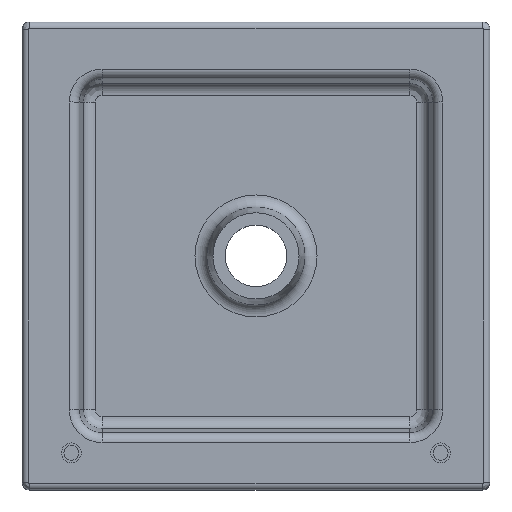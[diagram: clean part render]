
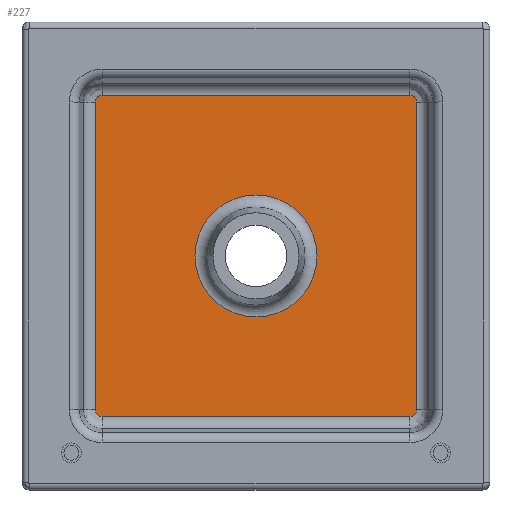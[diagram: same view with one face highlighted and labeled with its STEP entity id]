
A CAD part, top view. The second image highlights one B-rep face of the part: STEP entity #227.
In plain terms, the highlighted planar face has unit normal (0, 0, 1).
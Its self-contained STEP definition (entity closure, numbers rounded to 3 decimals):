
#227 = ADVANCED_FACE( '', ( #491, #492 ), #493, .T. );
#491 = FACE_BOUND( '', #1324, .T. );
#492 = FACE_OUTER_BOUND( '', #1325, .T. );
#493 = PLANE( '', #1326 );
#1324 = EDGE_LOOP( '', ( #1912 ) );
#1325 = EDGE_LOOP( '', ( #1913, #1914, #1915, #1916, #1917, #1918, #1919, #1920 ) );
#1326 = AXIS2_PLACEMENT_3D( '', #1921, #1922, #1923 );
#1912 = ORIENTED_EDGE( '', *, *, #2354, .T. );
#1913 = ORIENTED_EDGE( '', *, *, #2336, .T. );
#1914 = ORIENTED_EDGE( '', *, *, #2372, .T. );
#1915 = ORIENTED_EDGE( '', *, *, #2327, .T. );
#1916 = ORIENTED_EDGE( '', *, *, #2373, .T. );
#1917 = ORIENTED_EDGE( '', *, *, #2287, .T. );
#1918 = ORIENTED_EDGE( '', *, *, #2374, .T. );
#1919 = ORIENTED_EDGE( '', *, *, #2375, .T. );
#1920 = ORIENTED_EDGE( '', *, *, #2265, .T. );
#1921 = CARTESIAN_POINT( '', ( -125., -125., 95. ) );
#1922 = DIRECTION( '', ( 0., 0., 1. ) );
#1923 = DIRECTION( '', ( 1., 0., 0. ) );
#2265 = EDGE_CURVE( '', #2583, #2588, #2590, .T. );
#2287 = EDGE_CURVE( '', #2622, #2620, #2623, .T. );
#2327 = EDGE_CURVE( '', #2682, #2680, #2683, .T. );
#2336 = EDGE_CURVE( '', #2588, #2693, #2695, .T. );
#2354 = EDGE_CURVE( '', #2715, #2715, #2716, .F. );
#2372 = EDGE_CURVE( '', #2693, #2682, #2736, .T. );
#2373 = EDGE_CURVE( '', #2680, #2622, #2737, .T. );
#2374 = EDGE_CURVE( '', #2620, #2738, #2739, .T. );
#2375 = EDGE_CURVE( '', #2738, #2583, #2740, .T. );
#2583 = VERTEX_POINT( '', #2984 );
#2588 = VERTEX_POINT( '', #2990 );
#2590 = LINE( '', #2992, #2993 );
#2620 = VERTEX_POINT( '', #3027 );
#2622 = VERTEX_POINT( '', #3029 );
#2623 = CIRCLE( '', #3030, 5.438 );
#2680 = VERTEX_POINT( '', #3099 );
#2682 = VERTEX_POINT( '', #3101 );
#2683 = CIRCLE( '', #3102, 5.438 );
#2693 = VERTEX_POINT( '', #3112 );
#2695 = CIRCLE( '', #3114, 5.438 );
#2715 = VERTEX_POINT( '', #3141 );
#2716 = CIRCLE( '', #3142, 49.562 );
#2736 = LINE( '', #3165, #3166 );
#2737 = LINE( '', #3167, #3168 );
#2738 = VERTEX_POINT( '', #3169 );
#2739 = LINE( '', #3170, #3171 );
#2740 = CIRCLE( '', #3172, 5.438 );
#2984 = CARTESIAN_POINT( '', ( -125., -130.438, 95. ) );
#2990 = CARTESIAN_POINT( '', ( 125., -130.438, 95. ) );
#2992 = CARTESIAN_POINT( '', ( -125., -130.438, 95. ) );
#2993 = VECTOR( '', #3390, 1000. );
#3027 = CARTESIAN_POINT( '', ( -130.438, 125., 95. ) );
#3029 = CARTESIAN_POINT( '', ( -125., 130.438, 95. ) );
#3030 = AXIS2_PLACEMENT_3D( '', #3428, #3429, #3430 );
#3099 = CARTESIAN_POINT( '', ( 125., 130.438, 95. ) );
#3101 = CARTESIAN_POINT( '', ( 130.438, 125., 95. ) );
#3102 = AXIS2_PLACEMENT_3D( '', #3497, #3498, #3499 );
#3112 = CARTESIAN_POINT( '', ( 130.438, -125., 95. ) );
#3114 = AXIS2_PLACEMENT_3D( '', #3518, #3519, #3520 );
#3141 = CARTESIAN_POINT( '', ( 49.562, 0., 95. ) );
#3142 = AXIS2_PLACEMENT_3D( '', #3537, #3538, #3539 );
#3165 = CARTESIAN_POINT( '', ( 130.438, -125., 95. ) );
#3166 = VECTOR( '', #3561, 1000. );
#3167 = CARTESIAN_POINT( '', ( -125., 130.438, 95. ) );
#3168 = VECTOR( '', #3562, 1000. );
#3169 = CARTESIAN_POINT( '', ( -130.438, -125., 95. ) );
#3170 = CARTESIAN_POINT( '', ( -130.438, -125., 95. ) );
#3171 = VECTOR( '', #3563, 1000. );
#3172 = AXIS2_PLACEMENT_3D( '', #3564, #3565, #3566 );
#3390 = DIRECTION( '', ( 1., 0., 0. ) );
#3428 = CARTESIAN_POINT( '', ( -125., 125., 95. ) );
#3429 = DIRECTION( '', ( 0., 0., 1. ) );
#3430 = DIRECTION( '', ( 1., 0., 0. ) );
#3497 = CARTESIAN_POINT( '', ( 125., 125., 95. ) );
#3498 = DIRECTION( '', ( 0., 0., 1. ) );
#3499 = DIRECTION( '', ( 1., 0., 0. ) );
#3518 = CARTESIAN_POINT( '', ( 125., -125., 95. ) );
#3519 = DIRECTION( '', ( 0., 0., 1. ) );
#3520 = DIRECTION( '', ( 1., 0., 0. ) );
#3537 = CARTESIAN_POINT( '', ( 0., 0., 95. ) );
#3538 = DIRECTION( '', ( 0., 0., 1. ) );
#3539 = DIRECTION( '', ( 1., 0., 0. ) );
#3561 = DIRECTION( '', ( 0., 1., 0. ) );
#3562 = DIRECTION( '', ( -1., 0., 0. ) );
#3563 = DIRECTION( '', ( 0., -1., 0. ) );
#3564 = CARTESIAN_POINT( '', ( -125., -125., 95. ) );
#3565 = DIRECTION( '', ( 0., 0., 1. ) );
#3566 = DIRECTION( '', ( 1., 0., 0. ) );
